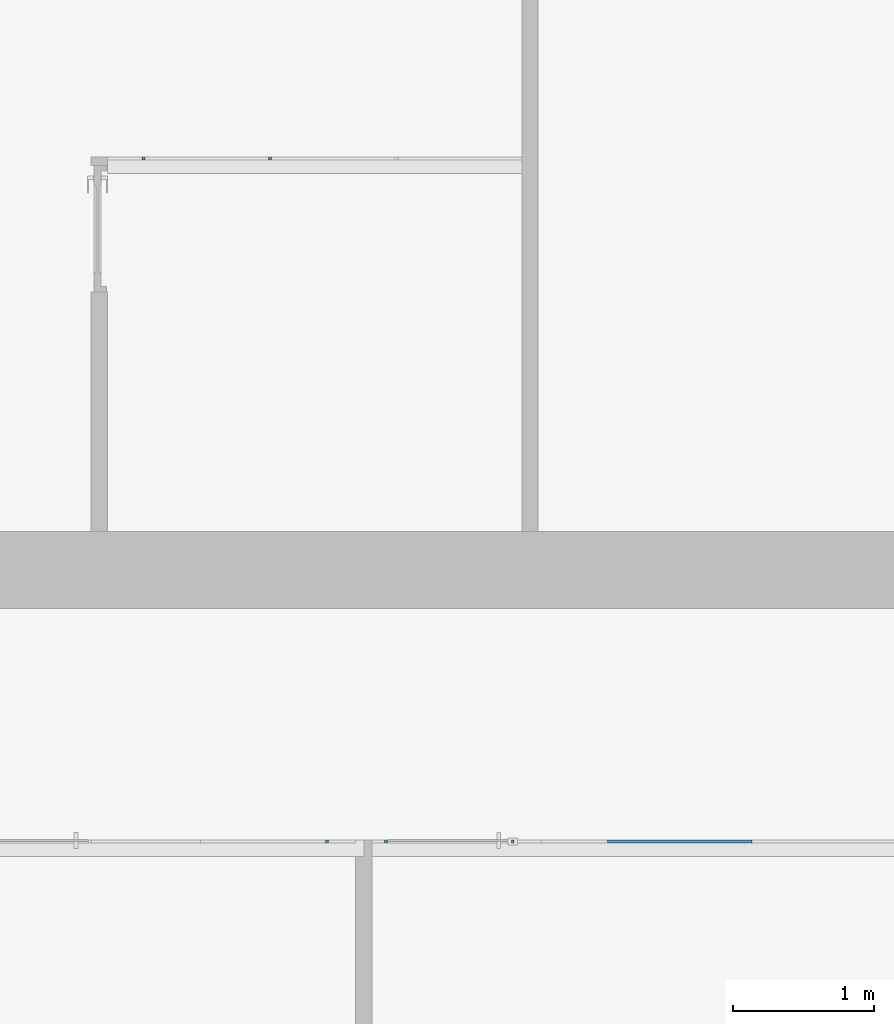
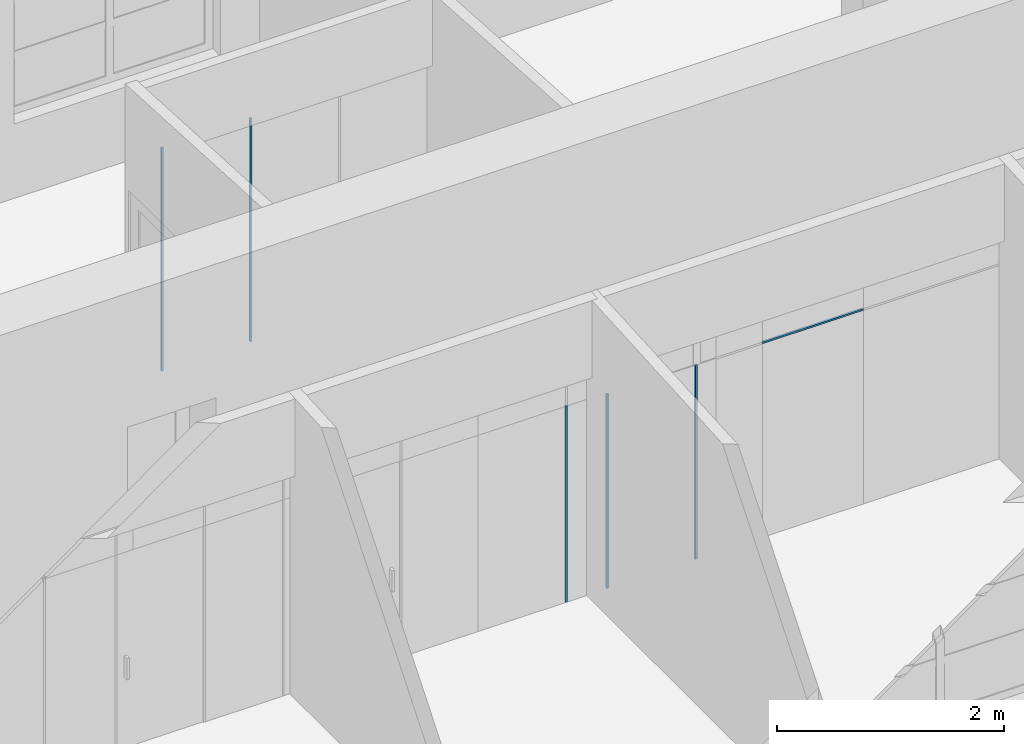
# One storey, part 3 of 46: 6 members, 3 elements without a shape of their own.
"""IFC2X3 building model written with IfcOpenShell, lengths in millimetres."""

import ifcopenshell
import ifcopenshell.guid

model = None  # the IFC model being written
_history = None  # IfcOwnerHistory: only IFC2X3 demands one
_inside = {}  # id of a spatial element -> (the spatial element, [elements in it])
_under = {}  # id of a project, library or spatial element -> (it, [spatial elements below it])
_declared = {}  # id of a project -> (the project, [libraries it declares])
_typed = {}  # id of a type object -> (the type object, [elements of that type])
_made_of = {}  # id of a material, layer set ... -> (it, [elements and type objects made of it])


def new_model(schema):
    """Start an empty IFC model of exactly this schema.

    Asked for "IFC4X3", IfcOpenShell would pick the latest addendum, in which some entities
    have other attributes; the version numbers below select the first issue.
    IFC2X3 requires an IfcOwnerHistory on every rooted entity: one is made here for all.
    """
    global model, _history
    if schema == "IFC4X3":
        model = ifcopenshell.file(schema_version=(4, 3, 0, 0))
    else:
        model = ifcopenshell.file(schema=schema)
    _inside.clear()
    _under.clear()
    _declared.clear()
    _typed.clear()
    _made_of.clear()
    _history = None
    if model.schema == "IFC2X3":
        org = make("IfcOrganization", Name="unknown")
        user = make(
            "IfcPersonAndOrganization",
            ThePerson=make("IfcPerson", FamilyName="unknown"),
            TheOrganization=org,
        )
        app = make(
            "IfcApplication",
            ApplicationDeveloper=org,
            Version="unknown",
            ApplicationFullName="unknown",
            ApplicationIdentifier="unknown",
        )
        _history = make(
            "IfcOwnerHistory",
            OwningUser=user,
            OwningApplication=app,
            ChangeAction="ADDED",
            CreationDate=0,
        )
    return model


def make(cls, **values):
    """One entity of the class cls with the attributes given. An attribute that is None is left unset."""
    return model.create_entity(
        cls, **{name: value for name, value in values.items() if value is not None}
    )


def entity(cls, *values):
    """Any entity or typed value of the class cls, its attributes in the order of the schema. None: left unset."""
    e = model.create_entity(cls)
    for i, value in enumerate(values):
        if value is not None:
            e[i] = value
    return e


def rooted(cls, **values):
    """An entity with a GlobalId (a new one), such as an element, a storey or a relation."""
    return make(cls, GlobalId=ifcopenshell.guid.new(), OwnerHistory=_history, **values)


def si_unit(unit_type, name, prefix=None):
    """IfcSIUnit, for example si_unit("LENGTHUNIT", "METRE", prefix="MILLI")."""
    return make("IfcSIUnit", UnitType=unit_type, Prefix=prefix, Name=name)


def converted_unit(unit_type, name, factor, base, dimensions=None, offset=None):
    """IfcConversionBasedUnit, such as the inch: factor (a typed value) times the base unit."""
    return make(
        "IfcConversionBasedUnit"
        if offset is None
        else "IfcConversionBasedUnitWithOffset",
        ConversionOffset=offset,
        Dimensions=None
        if dimensions is None
        else entity("IfcDimensionalExponents", *dimensions),
        UnitType=unit_type,
        Name=name,
        ConversionFactor=make(
            "IfcMeasureWithUnit", ValueComponent=factor, UnitComponent=base
        ),
    )


def derived_unit(unit_type, elements):
    """IfcDerivedUnit: a product of units, each with its exponent."""
    return make(
        "IfcDerivedUnit",
        Elements=[
            make("IfcDerivedUnitElement", Unit=unit, Exponent=power)
            for unit, power in elements
        ],
        UnitType=unit_type,
    )


def assignment(units):
    """IfcUnitAssignment: the units of a project."""
    return None if units is None else make("IfcUnitAssignment", Units=units)


def point(xyz):
    """IfcCartesianPoint."""
    return None if xyz is None else make("IfcCartesianPoint", Coordinates=xyz)


def direction(xyz):
    """IfcDirection."""
    return None if xyz is None else make("IfcDirection", DirectionRatios=xyz)


def frame(location, z_axis=None, x_axis=None):
    """IfcAxis2Placement3D, a coordinate frame: its origin and axes. An axis left out is left unset."""
    return make(
        "IfcAxis2Placement3D",
        Location=point(location),
        Axis=direction(z_axis),
        RefDirection=direction(x_axis),
    )


def frame_2d(location, x_axis=None):
    """IfcAxis2Placement2D, a coordinate frame in the plane: its origin and x axis."""
    return make(
        "IfcAxis2Placement2D", Location=point(location), RefDirection=direction(x_axis)
    )


def origin():
    """The frame at (0, 0, 0) with its axes left unset."""
    return frame((0.0, 0.0, 0.0))


def origin_2d_with_axis():
    """The frame at (0, 0) in the plane with the x axis (1, 0) written out."""
    return frame_2d((0.0, 0.0), x_axis=(1.0, 0.0))


def place(relative_to, where):
    """IfcLocalPlacement: puts the frame where relative to a parent placement (None: the world)."""
    return make(
        "IfcLocalPlacement", PlacementRelTo=relative_to, RelativePlacement=where
    )


def context(
    kind, dimensions, precision=None, world=None, true_north=None, identifier=None
):
    """IfcGeometricRepresentationContext, for example the 3D "Model" context."""
    return make(
        "IfcGeometricRepresentationContext",
        ContextIdentifier=identifier,
        ContextType=kind,
        CoordinateSpaceDimension=dimensions,
        Precision=precision,
        WorldCoordinateSystem=world,
        TrueNorth=true_north,
    )


def subcontext(parent, identifier, kind, view, scale=None):
    """IfcGeometricRepresentationSubContext, for example "Body" below "Model"."""
    return make(
        "IfcGeometricRepresentationSubContext",
        ContextIdentifier=identifier,
        ContextType=kind,
        ParentContext=parent,
        TargetScale=scale,
        TargetView=view,
    )


def project(units=None, contexts=None):
    """IfcProject with its units and contexts."""
    return rooted(
        "IfcProject",
        Name="project",
        RepresentationContexts=contexts,
        UnitsInContext=assignment(units),
    )


def spatial(cls, under=None, at=None, **own):
    """A site, building, storey or space (cls), placed at a placement, below another one or the project."""
    s = rooted(cls, ObjectPlacement=at, **own)
    if under is not None:
        _under.setdefault(under.id(), (under, []))[1].append(s)
    return s


def profile(cls, at=None, kind="AREA", **sizes):
    """A parametric profile (cls). Its sizes go by their IFC names, for example OverallWidth=200.0."""
    return make(cls, ProfileType=kind, Position=at, **sizes)


def rectangle(**sizes):
    """IfcRectangleProfileDef."""
    return profile("IfcRectangleProfileDef", **sizes)


def extrude(swept, where, along, depth):
    """IfcExtrudedAreaSolid: the profile swept, set in the frame where, extruded along a direction by depth."""
    return make(
        "IfcExtrudedAreaSolid",
        SweptArea=swept,
        Position=where,
        ExtrudedDirection=direction(along),
        Depth=depth,
    )


def shape(context_of_items, identifier, shape_type, items):
    """IfcShapeRepresentation: the items that make up one representation, for example the "Body"."""
    return make(
        "IfcShapeRepresentation",
        ContextOfItems=context_of_items,
        RepresentationIdentifier=identifier,
        RepresentationType=shape_type,
        Items=items,
    )


def source(mapping_origin, context_of_items, identifier, shape_type, items):
    """IfcRepresentationMap: a shape defined once, which mapped items show again and again."""
    return make(
        "IfcRepresentationMap",
        MappingOrigin=mapping_origin,
        MappedRepresentation=shape(context_of_items, identifier, shape_type, items),
    )


def transform(
    local_origin,
    x_axis=None,
    y_axis=None,
    z_axis=None,
    scale=None,
    scale2=None,
    scale3=None,
    uniform=True,
):
    """IfcCartesianTransformationOperator3D, or its non-uniform kind. x_axis, y_axis, z_axis: its Axis1, 2, 3."""
    if uniform:
        return make(
            "IfcCartesianTransformationOperator3D",
            Axis1=direction(x_axis),
            Axis2=direction(y_axis),
            LocalOrigin=point(local_origin),
            Scale=scale,
            Axis3=direction(z_axis),
        )
    return make(
        "IfcCartesianTransformationOperator3DnonUniform",
        Axis1=direction(x_axis),
        Axis2=direction(y_axis),
        LocalOrigin=point(local_origin),
        Scale=scale,
        Axis3=direction(z_axis),
        Scale2=scale2,
        Scale3=scale3,
    )


def mapped(mapping_source, mapping_target):
    """IfcMappedItem: shows the shape of a source again, moved by a transform."""
    return make(
        "IfcMappedItem", MappingSource=mapping_source, MappingTarget=mapping_target
    )


def material(Name=None, Category=None):
    """IfcMaterial."""
    return make("IfcMaterial", Name=Name, Category=Category)


def made_of(thing, what):
    """Note that an element or type object is made of a material, layer set ...; save() writes the relation."""
    if what is not None:
        _made_of.setdefault(what.id(), (what, []))[1].append(thing)
    return thing


def type_object(cls, material=None, **own):
    """A type object (cls), such as IfcWallType, which elements share."""
    return made_of(rooted(cls, **own), material)


def type_shapes(of_type, sources):
    """Give a type object the sources (RepresentationMaps) that its elements show as mapped items."""
    of_type.RepresentationMaps = sources


def element(
    cls,
    number,
    at=None,
    inside=None,
    cuts=None,
    type_object=None,
    material=None,
    context=None,
    identifier="Body",
    shape_type=None,
    held_by="IfcProductDefinitionShape",
    body=None,
    shapes=None,
    **own,
):
    """One element of the class cls, such as IfcWall. Its Tag is "e" and its number.

    at: its placement. inside: the storey or other place that contains it. cuts: it is an
    opening in that element (IfcRelVoidsElement). A single representation is given by context,
    identifier, shape_type and body (its items); several are given by shapes. held_by: the class
    of the entity that holds the representations. save() writes the other relations.
    """
    e = rooted(cls, Tag="e%d" % number, ObjectPlacement=at, **own)
    if body is not None:
        shapes = [shape(context, identifier, shape_type, body)]
    if shapes is not None:
        e.Representation = make(held_by, Representations=shapes)
    if inside is not None:
        _inside.setdefault(inside.id(), (inside, []))[1].append(e)
    if cuts is not None:
        rooted(
            "IfcRelVoidsElement", RelatingBuildingElement=cuts, RelatedOpeningElement=e
        )
    if type_object is not None:
        _typed.setdefault(type_object.id(), (type_object, []))[1].append(e)
    return made_of(e, material)


def aggregate(whole, parts):
    """IfcRelAggregates: a whole, such as a stair, and the parts it consists of."""
    return rooted("IfcRelAggregates", RelatingObject=whole, RelatedObjects=parts)


def save(model, path):
    """Write the relations noted so far, then the file.

    IfcRelAggregates (storeys below a building ...), IfcRelContainedInSpatialStructure (elements
    in a storey), IfcRelDefinesByType, IfcRelAssociatesMaterial and IfcRelDeclares: one each for
    every whole, place, type object, material and project.
    """
    for whole, parts in _under.values():
        aggregate(whole, parts)
    for where, things in _inside.values():
        rooted(
            "IfcRelContainedInSpatialStructure",
            RelatedElements=things,
            RelatingStructure=where,
        )
    for kind, things in _typed.values():
        rooted("IfcRelDefinesByType", RelatedObjects=things, RelatingType=kind)
    for what, things in _made_of.values():
        rooted("IfcRelAssociatesMaterial", RelatedObjects=things, RelatingMaterial=what)
    for by, libraries in _declared.values():
        rooted("IfcRelDeclares", RelatingContext=by, RelatedDefinitions=libraries)
    model.write(path)


model = new_model("IFC2X3")

# Units and contexts
model_context = context("Model", 3, precision=0.01, world=origin(), true_north=direction((6.12303176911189e-17, 1.0)))
body_context = subcontext(model_context, "Body", "Model", "MODEL_VIEW")
ifc_project = project(units=[si_unit("LENGTHUNIT", "METRE", prefix="MILLI"), si_unit("AREAUNIT", "SQUARE_METRE"), si_unit("VOLUMEUNIT", "CUBIC_METRE"), converted_unit("PLANEANGLEUNIT", "DEGREE", entity("IfcRatioMeasure", 0.0174532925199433), si_unit("PLANEANGLEUNIT", "RADIAN"), dimensions=[0, 0, 0, 0, 0, 0, 0]), si_unit("MASSUNIT", "GRAM", prefix="KILO"), derived_unit("MASSDENSITYUNIT", [(si_unit("MASSUNIT", "GRAM", prefix="KILO"), 1), (si_unit("LENGTHUNIT", "METRE"), -3)]), si_unit("TIMEUNIT", "SECOND"), si_unit("FREQUENCYUNIT", "HERTZ"), si_unit("THERMODYNAMICTEMPERATUREUNIT", "DEGREE_CELSIUS"), derived_unit("THERMALTRANSMITTANCEUNIT", [(si_unit("MASSUNIT", "GRAM", prefix="KILO"), 1), (si_unit("THERMODYNAMICTEMPERATUREUNIT", "KELVIN"), -1), (si_unit("TIMEUNIT", "SECOND"), -3)]), derived_unit("VOLUMETRICFLOWRATEUNIT", [(si_unit("LENGTHUNIT", "METRE"), 3), (si_unit("TIMEUNIT", "SECOND"), -1)]), si_unit("ELECTRICCURRENTUNIT", "AMPERE"), si_unit("ELECTRICVOLTAGEUNIT", "VOLT"), si_unit("POWERUNIT", "WATT"), si_unit("FORCEUNIT", "NEWTON", prefix="KILO"), si_unit("ILLUMINANCEUNIT", "LUX"), si_unit("LUMINOUSFLUXUNIT", "LUMEN"), si_unit("LUMINOUSINTENSITYUNIT", "CANDELA"), derived_unit("USERDEFINED", [(si_unit("MASSUNIT", "GRAM", prefix="KILO"), -1), (si_unit("LENGTHUNIT", "METRE"), -2), (si_unit("TIMEUNIT", "SECOND"), 3), (si_unit("LUMINOUSFLUXUNIT", "LUMEN"), 1)]), derived_unit("LINEARVELOCITYUNIT", [(si_unit("LENGTHUNIT", "METRE"), 1), (si_unit("TIMEUNIT", "SECOND"), -1)]), si_unit("PRESSUREUNIT", "PASCAL"), derived_unit("USERDEFINED", [(si_unit("LENGTHUNIT", "METRE"), -2), (si_unit("MASSUNIT", "GRAM", prefix="KILO"), 1), (si_unit("TIMEUNIT", "SECOND"), -2)])], contexts=[model_context])

# Site, building, storey
site_placement = place(None, frame((-151.875543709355, 2715.0, 0.0)))
site = spatial("IfcSite", under=ifc_project, at=site_placement, Name="Surface", CompositionType="ELEMENT")
building_placement = place(site_placement, origin())
building = spatial("IfcBuilding", under=site, at=building_placement, CompositionType="ELEMENT")
storey_placement = place(building_placement, frame((0.0, 0.0, 10060.0)))
storey = spatial("IfcBuildingStorey", under=building, at=storey_placement, Name="4 korrus", CompositionType="ELEMENT", Elevation=10060.0000000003)

# Curtain wall, member
curtain_wall_type_1 = type_object("IfcCurtainWallType", Name="Curtain Wall:Klaassein KLS-27", PredefinedType="NOTDEFINED")
curtain_wall_1_placement = place(storey_placement, frame((0.0, 0.0, -10060.0)))
curtain_wall_1 = element("IfcCurtainWall", 1, at=curtain_wall_1_placement, inside=storey, type_object=curtain_wall_type_1, Name="Curtain Wall:Klaassein KLS-27", ObjectType="Curtain Wall:Klaassein KLS-27")
ifc_material = material(Name="__Uks_hele tamm")
member_type_1 = type_object("IfcMemberType", Name="20 x 20mm", PredefinedType="MEMBER")
shared_shape_1 = source(origin(), body_context, "Body", "SweptSolid", [
    extrude(rectangle(XDim=20.0, YDim=20.0, at=origin_2d_with_axis()), frame((0.0, 0.0, -2090.0), z_axis=(0.0, 0.0, 1.0), x_axis=(0.0, -1.0, 0.0)), (0.0, 0.0, 1.0), 2090.0),
])
type_shapes(member_type_1, [shared_shape_1])
member_1_placement = place(storey_placement, frame((16019.5647264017, 4355.04493399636, 0.0), z_axis=(0.0, 0.0, -1.0), x_axis=(1.0, 0.0, 0.0)))
member_1 = element("IfcMember", 2, at=member_1_placement, type_object=member_type_1, material=ifc_material, Name="Rectangular Mullion:20 x 20mm", ObjectType="20 x 20mm", context=body_context, shape_type="MappedRepresentation", body=[
    mapped(shared_shape_1, transform((0.0, 0.0, 0.0), scale=1.0)),
])

curtain_wall_type_2 = type_object("IfcCurtainWallType", Name="Curtain Wall:Klaassein KLS-26", PredefinedType="NOTDEFINED")
curtain_wall_2_placement = place(storey_placement, frame((0.0, 0.0, -10060.0)))
curtain_wall_2 = element("IfcCurtainWall", 3, at=curtain_wall_2_placement, inside=storey, type_object=curtain_wall_type_2, Name="Curtain Wall:Klaassein KLS-26", ObjectType="Curtain Wall:Klaassein KLS-26")
member_type_2 = type_object("IfcMemberType", Name="20 x 20mm", PredefinedType="MEMBER")
shared_shape_2 = source(origin(), body_context, "Body", "SweptSolid", [
    extrude(rectangle(XDim=20.0, YDim=20.0, at=origin_2d_with_axis()), frame((0.0, 0.0, -2110.0), z_axis=(0.0, 0.0, 1.0), x_axis=(0.0, -1.0, 0.0)), (0.0, 0.0, 1.0), 2110.0),
])
type_shapes(member_type_2, [shared_shape_2])
member_2_placement = place(storey_placement, frame((15599.5647267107, 4355.19562687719, 0.0), z_axis=(0.0, 0.0, -1.0), x_axis=(1.0, 0.0, 0.0)))
member_2 = element("IfcMember", 4, at=member_2_placement, type_object=member_type_2, material=ifc_material, Name="Rectangular Mullion:20 x 20mm", ObjectType="20 x 20mm", context=body_context, shape_type="MappedRepresentation", body=[
    mapped(shared_shape_2, transform((0.0, 0.0, 0.0), scale=1.0)),
])
aggregate(curtain_wall_2, [member_2])

# Member
member_type_3 = type_object("IfcMemberType", Name="20 x 20mm", PredefinedType="MEMBER")
shared_shape_3 = source(origin(), body_context, "Body", "SweptSolid", [
    extrude(rectangle(XDim=20.0, YDim=20.0, at=origin_2d_with_axis()), frame((0.0, 0.0, -2090.0), z_axis=(0.0, 0.0, 1.0), x_axis=(0.0, -1.0, 0.0)), (0.0, 0.0, 1.0), 2090.0),
])
type_shapes(member_type_3, [shared_shape_3])
member_3_placement = place(storey_placement, frame((16919.5647264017, 4355.04493399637, 0.0), z_axis=(0.0, 0.0, -1.0), x_axis=(1.0, 0.0, 0.0)))
member_3 = element("IfcMember", 5, at=member_3_placement, type_object=member_type_3, material=ifc_material, Name="Rectangular Mullion:20 x 20mm", ObjectType="20 x 20mm", context=body_context, shape_type="MappedRepresentation", body=[
    mapped(shared_shape_3, transform((0.0, 0.0, 0.0), scale=1.0)),
])

member_type_4 = type_object("IfcMemberType", Name="20 x 20mm", PredefinedType="MEMBER")
shared_shape_4 = source(origin(), body_context, "Body", "SweptSolid", [
    extrude(rectangle(XDim=20.0, YDim=20.0, at=origin_2d_with_axis()), frame((0.0, 0.0, -1024.8611741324), z_axis=(0.0, 0.0, 1.0), x_axis=(0.0, -1.0, 0.0)), (0.0, 0.0, 1.0), 1024.8611741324),
])
type_shapes(member_type_4, [shared_shape_4])
member_4_placement = place(storey_placement, frame((18619.5647267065, 4355.04493399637, 2090.0), z_axis=(1.0, 0.0, 0.0), x_axis=(0.0, 0.0, 1.0)))
member_4 = element("IfcMember", 6, at=member_4_placement, type_object=member_type_4, material=ifc_material, Name="Rectangular Mullion:20 x 20mm", ObjectType="20 x 20mm", context=body_context, shape_type="MappedRepresentation", body=[
    mapped(shared_shape_4, transform((0.0, 0.0, 0.0), scale=1.0)),
])

aggregate(curtain_wall_1, [member_1, member_4, member_3])

# Curtain wall, members
curtain_wall_type_3 = type_object("IfcCurtainWallType", Name="Curtain Wall:Klaassein KLS-28", PredefinedType="NOTDEFINED")
curtain_wall_3_placement = place(storey_placement, frame((0.0, 0.0, -10060.0)))
curtain_wall_3 = element("IfcCurtainWall", 7, at=curtain_wall_3_placement, inside=storey, type_object=curtain_wall_type_3, Name="Curtain Wall:Klaassein KLS-28", ObjectType="Curtain Wall:Klaassein KLS-28")
member_type_5 = type_object("IfcMemberType", Name="20 x 20mm", PredefinedType="MEMBER")
shared_shape_5 = source(origin(), body_context, "Body", "SweptSolid", [
    extrude(rectangle(XDim=20.0, YDim=20.0, at=origin_2d_with_axis()), frame((0.0, 0.0, -2400.0), z_axis=(0.0, 0.0, 1.0), x_axis=(0.0, -1.0, 0.0)), (0.0, 0.0, 1.0), 2400.0),
])
type_shapes(member_type_5, [shared_shape_5])
member_5_placement = place(storey_placement, frame((15193.8493550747, 9210.00115708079, 0.0), z_axis=(0.0, 0.0, -1.0), x_axis=(-1.0, 0.0, 0.0)))
member_5 = element("IfcMember", 8, at=member_5_placement, type_object=member_type_5, material=ifc_material, Name="Rectangular Mullion:20 x 20mm", ObjectType="20 x 20mm", context=body_context, shape_type="MappedRepresentation", body=[
    mapped(shared_shape_5, transform((0.0, 0.0, 0.0), scale=1.0)),
])
member_6_placement = place(storey_placement, frame((14293.8493550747, 9210.0011570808, 0.0), z_axis=(0.0, 0.0, -1.0), x_axis=(-1.0, 0.0, 0.0)))
member_6 = element("IfcMember", 9, at=member_6_placement, type_object=member_type_5, material=ifc_material, Name="Rectangular Mullion:20 x 20mm", ObjectType="20 x 20mm", context=body_context, shape_type="MappedRepresentation", body=[
    mapped(shared_shape_5, transform((0.0, 0.0, 0.0), scale=1.0)),
])
aggregate(curtain_wall_3, [member_5, member_6])

save(model, "model.ifc")
